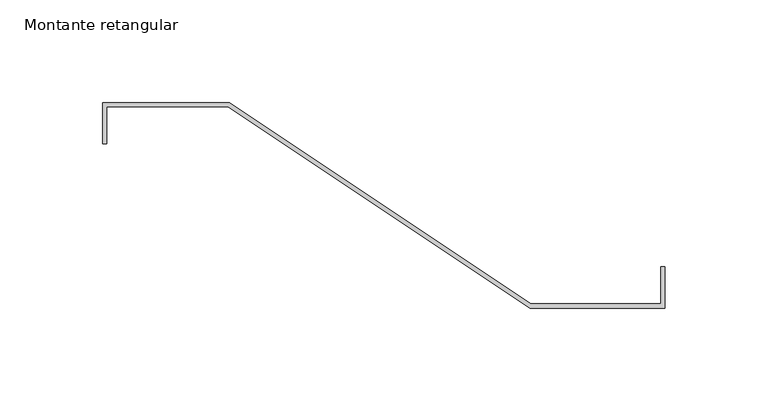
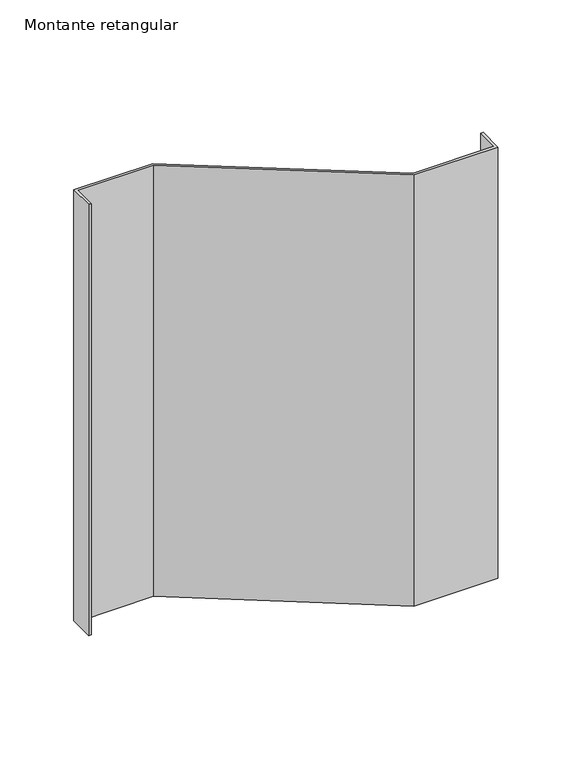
"""IFC4 building model written with IfcOpenShell, lengths in millimetres: member geometry, Montante retangular : FDE_AletaVenezianaIndustrial_Ref100 (Alumínio Anodizado)."""

import ifcopenshell
import ifcopenshell.guid

model = None  # the IFC model being written
_history = None  # IfcOwnerHistory: only IFC2X3 demands one
_inside = {}  # id of a spatial element -> (the spatial element, [elements in it])
_under = {}  # id of a project, library or spatial element -> (it, [spatial elements below it])
_declared = {}  # id of a project -> (the project, [libraries it declares])
_typed = {}  # id of a type object -> (the type object, [elements of that type])
_made_of = {}  # id of a material, layer set ... -> (it, [elements and type objects made of it])


def new_model(schema):
    """Start an empty IFC model of exactly this schema.

    Asked for "IFC4X3", IfcOpenShell would pick the latest addendum, in which some entities
    have other attributes; the version numbers below select the first issue.
    IFC2X3 requires an IfcOwnerHistory on every rooted entity: one is made here for all.
    """
    global model, _history
    if schema == "IFC4X3":
        model = ifcopenshell.file(schema_version=(4, 3, 0, 0))
    else:
        model = ifcopenshell.file(schema=schema)
    _inside.clear()
    _under.clear()
    _declared.clear()
    _typed.clear()
    _made_of.clear()
    _history = None
    if model.schema == "IFC2X3":
        org = make("IfcOrganization", Name="unknown")
        user = make(
            "IfcPersonAndOrganization",
            ThePerson=make("IfcPerson", FamilyName="unknown"),
            TheOrganization=org,
        )
        app = make(
            "IfcApplication",
            ApplicationDeveloper=org,
            Version="unknown",
            ApplicationFullName="unknown",
            ApplicationIdentifier="unknown",
        )
        _history = make(
            "IfcOwnerHistory",
            OwningUser=user,
            OwningApplication=app,
            ChangeAction="ADDED",
            CreationDate=0,
        )
    return model


def make(cls, **values):
    """One entity of the class cls with the attributes given. An attribute that is None is left unset."""
    return model.create_entity(
        cls, **{name: value for name, value in values.items() if value is not None}
    )


def rooted(cls, **values):
    """An entity with a GlobalId (a new one), such as an element, a storey or a relation."""
    return make(cls, GlobalId=ifcopenshell.guid.new(), OwnerHistory=_history, **values)


def si_unit(unit_type, name, prefix=None):
    """IfcSIUnit, for example si_unit("LENGTHUNIT", "METRE", prefix="MILLI")."""
    return make("IfcSIUnit", UnitType=unit_type, Prefix=prefix, Name=name)


def assignment(units):
    """IfcUnitAssignment: the units of a project."""
    return None if units is None else make("IfcUnitAssignment", Units=units)


def point(xyz):
    """IfcCartesianPoint."""
    return None if xyz is None else make("IfcCartesianPoint", Coordinates=xyz)


def direction(xyz):
    """IfcDirection."""
    return None if xyz is None else make("IfcDirection", DirectionRatios=xyz)


def frame(location, z_axis=None, x_axis=None):
    """IfcAxis2Placement3D, a coordinate frame: its origin and axes. An axis left out is left unset."""
    return make(
        "IfcAxis2Placement3D",
        Location=point(location),
        Axis=direction(z_axis),
        RefDirection=direction(x_axis),
    )


def origin():
    """The frame at (0, 0, 0) with its axes left unset."""
    return frame((0.0, 0.0, 0.0))


def place(relative_to, where):
    """IfcLocalPlacement: puts the frame where relative to a parent placement (None: the world)."""
    return make(
        "IfcLocalPlacement", PlacementRelTo=relative_to, RelativePlacement=where
    )


def context(
    kind, dimensions, precision=None, world=None, true_north=None, identifier=None
):
    """IfcGeometricRepresentationContext, for example the 3D "Model" context."""
    return make(
        "IfcGeometricRepresentationContext",
        ContextIdentifier=identifier,
        ContextType=kind,
        CoordinateSpaceDimension=dimensions,
        Precision=precision,
        WorldCoordinateSystem=world,
        TrueNorth=true_north,
    )


def project(units=None, contexts=None):
    """IfcProject with its units and contexts."""
    return rooted(
        "IfcProject",
        Name="project",
        RepresentationContexts=contexts,
        UnitsInContext=assignment(units),
    )


def spatial(cls, under=None, at=None, **own):
    """A site, building, storey or space (cls), placed at a placement, below another one or the project."""
    s = rooted(cls, ObjectPlacement=at, **own)
    if under is not None:
        _under.setdefault(under.id(), (under, []))[1].append(s)
    return s


def polyline(points):
    """IfcPolyline through the points."""
    return make("IfcPolyline", Points=[point(p) for p in points])


def outline(outer, holes=None, kind="AREA"):
    """IfcArbitraryClosedProfileDef: a profile drawn as a closed curve; with holes, ...WithVoids."""
    if holes is None:
        return make("IfcArbitraryClosedProfileDef", ProfileType=kind, OuterCurve=outer)
    return make(
        "IfcArbitraryProfileDefWithVoids",
        ProfileType=kind,
        OuterCurve=outer,
        InnerCurves=holes,
    )


def extrude(swept, where, along, depth):
    """IfcExtrudedAreaSolid: the profile swept, set in the frame where, extruded along a direction by depth."""
    return make(
        "IfcExtrudedAreaSolid",
        SweptArea=swept,
        Position=where,
        ExtrudedDirection=direction(along),
        Depth=depth,
    )


def shape(context_of_items, identifier, shape_type, items):
    """IfcShapeRepresentation: the items that make up one representation, for example the "Body"."""
    return make(
        "IfcShapeRepresentation",
        ContextOfItems=context_of_items,
        RepresentationIdentifier=identifier,
        RepresentationType=shape_type,
        Items=items,
    )


def source(mapping_origin, context_of_items, identifier, shape_type, items):
    """IfcRepresentationMap: a shape defined once, which mapped items show again and again."""
    return make(
        "IfcRepresentationMap",
        MappingOrigin=mapping_origin,
        MappedRepresentation=shape(context_of_items, identifier, shape_type, items),
    )


def transform(
    local_origin,
    x_axis=None,
    y_axis=None,
    z_axis=None,
    scale=None,
    scale2=None,
    scale3=None,
    uniform=True,
):
    """IfcCartesianTransformationOperator3D, or its non-uniform kind. x_axis, y_axis, z_axis: its Axis1, 2, 3."""
    if uniform:
        return make(
            "IfcCartesianTransformationOperator3D",
            Axis1=direction(x_axis),
            Axis2=direction(y_axis),
            LocalOrigin=point(local_origin),
            Scale=scale,
            Axis3=direction(z_axis),
        )
    return make(
        "IfcCartesianTransformationOperator3DnonUniform",
        Axis1=direction(x_axis),
        Axis2=direction(y_axis),
        LocalOrigin=point(local_origin),
        Scale=scale,
        Axis3=direction(z_axis),
        Scale2=scale2,
        Scale3=scale3,
    )


def mapped(mapping_source, mapping_target):
    """IfcMappedItem: shows the shape of a source again, moved by a transform."""
    return make(
        "IfcMappedItem", MappingSource=mapping_source, MappingTarget=mapping_target
    )


def made_of(thing, what):
    """Note that an element or type object is made of a material, layer set ...; save() writes the relation."""
    if what is not None:
        _made_of.setdefault(what.id(), (what, []))[1].append(thing)
    return thing


def element(
    cls,
    number,
    at=None,
    inside=None,
    cuts=None,
    type_object=None,
    material=None,
    context=None,
    identifier="Body",
    shape_type=None,
    held_by="IfcProductDefinitionShape",
    body=None,
    shapes=None,
    **own,
):
    """One element of the class cls, such as IfcWall. Its Tag is "e" and its number.

    at: its placement. inside: the storey or other place that contains it. cuts: it is an
    opening in that element (IfcRelVoidsElement). A single representation is given by context,
    identifier, shape_type and body (its items); several are given by shapes. held_by: the class
    of the entity that holds the representations. save() writes the other relations.
    """
    e = rooted(cls, Tag="e%d" % number, ObjectPlacement=at, **own)
    if body is not None:
        shapes = [shape(context, identifier, shape_type, body)]
    if shapes is not None:
        e.Representation = make(held_by, Representations=shapes)
    if inside is not None:
        _inside.setdefault(inside.id(), (inside, []))[1].append(e)
    if cuts is not None:
        rooted(
            "IfcRelVoidsElement", RelatingBuildingElement=cuts, RelatedOpeningElement=e
        )
    if type_object is not None:
        _typed.setdefault(type_object.id(), (type_object, []))[1].append(e)
    return made_of(e, material)


def aggregate(whole, parts):
    """IfcRelAggregates: a whole, such as a stair, and the parts it consists of."""
    return rooted("IfcRelAggregates", RelatingObject=whole, RelatedObjects=parts)


def save(model, path):
    """Write the relations noted so far, then the file.

    IfcRelAggregates (storeys below a building ...), IfcRelContainedInSpatialStructure (elements
    in a storey), IfcRelDefinesByType, IfcRelAssociatesMaterial and IfcRelDeclares: one each for
    every whole, place, type object, material and project.
    """
    for whole, parts in _under.values():
        aggregate(whole, parts)
    for where, things in _inside.values():
        rooted(
            "IfcRelContainedInSpatialStructure",
            RelatedElements=things,
            RelatingStructure=where,
        )
    for kind, things in _typed.values():
        rooted("IfcRelDefinesByType", RelatedObjects=things, RelatingType=kind)
    for what, things in _made_of.values():
        rooted("IfcRelAssociatesMaterial", RelatedObjects=things, RelatingMaterial=what)
    for by, libraries in _declared.values():
        rooted("IfcRelDeclares", RelatingContext=by, RelatedDefinitions=libraries)
    model.write(path)


def montante_retangular_e99c3e47(model_context):
    return source(origin(), model_context, "Body", "SweptSolid", [
        extrude(outline(polyline([(-212.1972244, 50.0), (-65.1972244, -48.0), (-2.0, -48.0), (-2.0, -30.0), (0.0, -30.0), (0.0, -50.0), (-65.8027756, -50.0), (-212.8027756, 48.0), (-272.0, 48.0), (-272.0, 30.0), (-274.0, 30.0), (-274.0, 50.0), (-212.1972244, 50.0)])), frame((0.0, 0.0, -356.5789476), z_axis=(0.0, 0.0, 1.0), x_axis=(1.0, 0.0, 0.0)), (0.0, 0.0, 1.0), 356.5789476),
    ])


if __name__ == "__main__":
    model = new_model("IFC4")
    model_context = context("Model", 3, world=origin())
    ifc_project = project(units=[si_unit("LENGTHUNIT", "METRE", prefix="MILLI")], contexts=[model_context])
    site = spatial("IfcSite", under=ifc_project)
    building = spatial("IfcBuilding", under=site)
    placement = place(None, origin())
    montante_retangular_shape = montante_retangular_e99c3e47(model_context)
    element("IfcMember", 1, ObjectType="Montante retangular : FDE_AletaVenezianaIndustrial_Ref100 (Alumínio Anodizado)", at=placement, inside=building, context=model_context, shape_type="MappedRepresentation", body=[
        mapped(montante_retangular_shape, transform((0.0, 0.0, 0.0), x_axis=(1.0, 0.0, 0.0), y_axis=(0.0, 1.0, 0.0), z_axis=(0.0, 0.0, 1.0))),
    ])
    save(model, "model.ifc")
